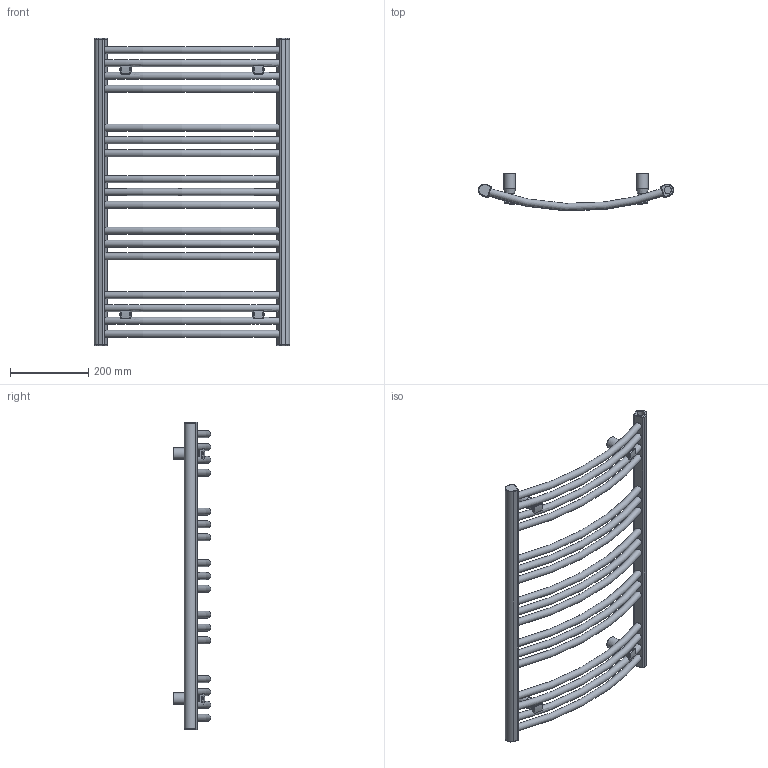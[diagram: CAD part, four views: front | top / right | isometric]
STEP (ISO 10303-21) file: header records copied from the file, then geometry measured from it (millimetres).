
FILE_DESCRIPTION((''),'2;1');
FILE_NAME('Z:\R\G\P\RGPH14 - Grzejnik Domi\Work\Inventor\Marketing\STEP\DO-78-50 SX.stp','2012-07-23T17:06:06',('PioRo'),(''),'Autodesk Inventor 2012','Autodesk Inventor 2012','');
FILE_SCHEMA(('AUTOMOTIVE_DESIGN { 1 0 10303 214 1 1 1 1 }'));
Length unit declared in the file: millimetre
Products named in the file (1): DO-78-50 SX
Bounding box: 500 x 95.48 x 786 mm (x, y, z)
Volume: 3369202 mm3; surface area: 629462.7 mm2
Topology: 1 solids, 5 shells, 211 faces, 512 edges, 324 vertices
Faces by surface type: cylinder 81, plane 73, torus 33, bspline 20, cone 4
Full cylindrical faces by diameter (mm): 5 x8, 9 x4, 18.631 x3, 21.8 x4, 30 x4
Entity records: 7122 total; most frequent: CARTESIAN_POINT 2092, DIRECTION 984, ORIENTED_EDGE 912, EDGE_CURVE 456, AXIS2_PLACEMENT_3D 420, EDGE_LOOP 332, VERTEX_POINT 312, CIRCLE 212
